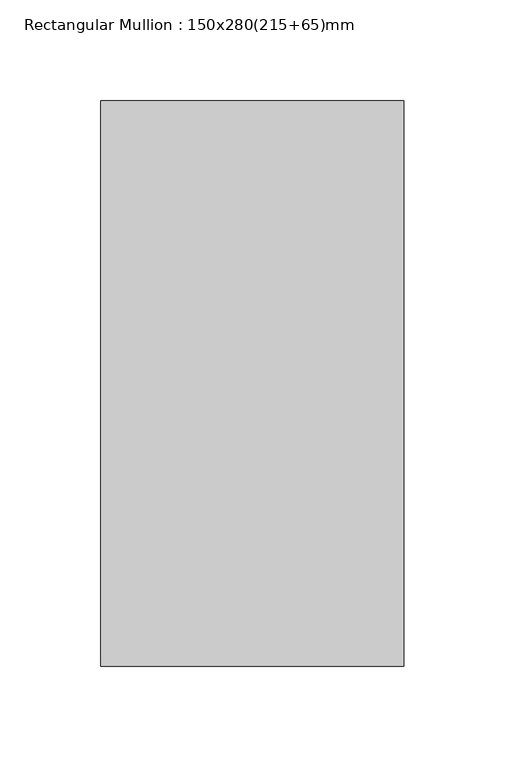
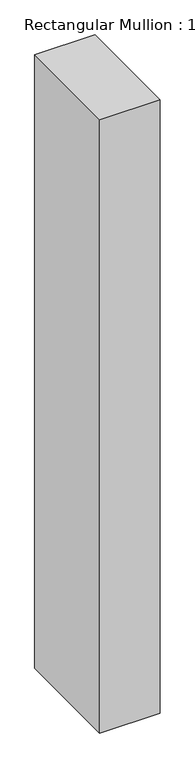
"""IFC4 building model written with IfcOpenShell, lengths in millimetres: member geometry, Rectangular Mullion : 150x280(215+65)mm."""

from ifc_helpers import new_model, si_unit, frame, origin, place, context, project, spatial, polyline, outline, extrude, source, transform, mapped, element, save


def rectangular_mullion_150x280_215_65_mm_4d04e392(model_context):
    return source(origin(), model_context, "Body", "SweptSolid", [
        extrude(outline(polyline([(0.0, 65.0), (0.0, -215.0), (-150.0, -215.0), (-150.0, 65.0), (0.0, 65.0)])), frame((0.0, 0.0, -1611.3395588), z_axis=(0.0, 0.0, 1.0), x_axis=(1.0, 0.0, 0.0)), (0.0, 0.0, 1.0), 1611.3395588),
    ])


if __name__ == "__main__":
    model = new_model("IFC4")
    model_context = context("Model", 3, world=origin())
    ifc_project = project(units=[si_unit("LENGTHUNIT", "METRE", prefix="MILLI")], contexts=[model_context])
    site = spatial("IfcSite", under=ifc_project)
    building = spatial("IfcBuilding", under=site)
    placement = place(None, origin())
    rectangular_mullion_150x280_215_65_mm_shape = rectangular_mullion_150x280_215_65_mm_4d04e392(model_context)
    element("IfcMember", 1, ObjectType="Rectangular Mullion : 150x280(215+65)mm", at=placement, inside=building, context=model_context, shape_type="MappedRepresentation", body=[
        mapped(rectangular_mullion_150x280_215_65_mm_shape, transform((0.0, 0.0, 0.0), x_axis=(1.0, 0.0, 0.0), y_axis=(0.0, 1.0, 0.0), z_axis=(0.0, 0.0, 1.0))),
    ])
    save(model, "model.ifc")
